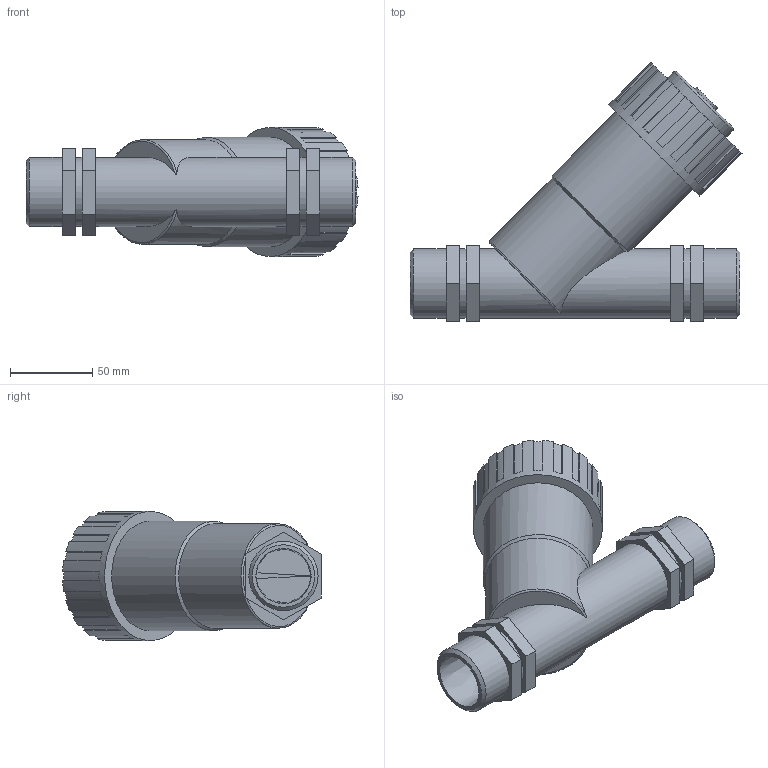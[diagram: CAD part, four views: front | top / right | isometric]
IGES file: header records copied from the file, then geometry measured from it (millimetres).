
Global section: file name: 03067155.ipt; native system: Autodesk Inventor 2015; preprocessor: unknown; author: KIM; date: 20170619.121331; units: millimetre
Bounding box: 201.26 x 156.99 x 78.39 mm (x, y, z)
Volume: 615260.6 mm3; surface area: 87946.7 mm2
Topology: 1 solids, 2 shells, 138 faces, 372 edges, 248 vertices
Faces by surface type: plane 100, cylinder 31, revolution 4, cone 3
Full cylindrical faces by diameter (mm): 18.09 x1, 41.91 x5, 50.652 x1, 66.33 x1, 78.39 x1
